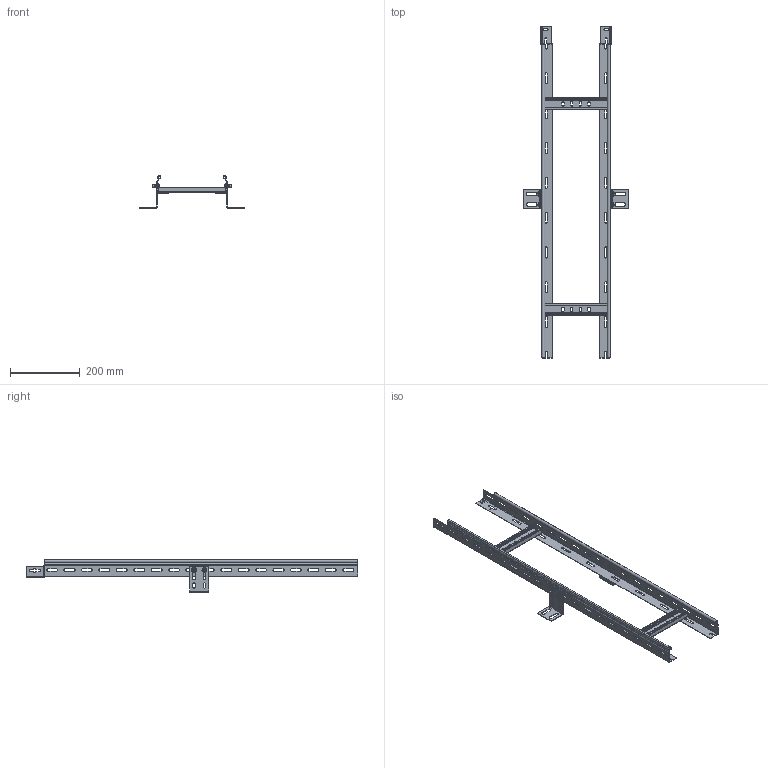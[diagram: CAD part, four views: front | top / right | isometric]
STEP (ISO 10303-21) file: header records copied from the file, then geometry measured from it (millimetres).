
FILE_DESCRIPTION (( 'STEP AP214' ), '1' );
FILE_NAME ('109.STEP', '2016-10-12T11:18:33', ( '' ), ( '' ), 'SwSTEP 2.0', 'SolidWorks 2016', '' );
FILE_SCHEMA (( 'AUTOMOTIVE_DESIGN' ));
Length unit declared in the file: millimetre
Products named in the file (10): OSTEC ÍËÎ 200.01_Ïåðåêëàäèíà 200; Êëèíã 1,5; OSTEC ÍËÎ 200.02_Ñâÿçü ïðîäîëüíàÿ 50; 109; 067609 襟6捘_Hexagon Flange Nut DIN 6923 - M6 - N; OSTEC ÍËÎ 200.03_Ñâÿçü ïðîäîëüíàÿ 50; 066169 蟯616_ISO 7045 - M6 x 10 - Z --- 10N; OSTEC ÍËÎ 200_Ëîòîê ëåñòíè÷íûé 200õ50; 050201 ﾑﾊﾋ
Assembly tree (15 placements, depth 3):
  Êëèíã 1,5
  109
    050201 ﾑﾊﾋ  x2
    OSTEC ÍËÎ 200_Ëîòîê ëåñòíè÷íûé 200õ50
      OSTEC ÍËÎ 200.02_Ñâÿçü ïðîäîëüíàÿ 50
      OSTEC ÍËÎ 200.03_Ñâÿçü ïðîäîëüíàÿ 50
      OSTEC ÍËÎ 200.01_Ïåðåêëàäèíà 200  x2
    066169 蟯616_ISO 7045 - M6 x 10 - Z --- 10N  x4
    067609 襟6捘_Hexagon Flange Nut DIN 6923 - M6 - N  x4
  OSTEC ÍËÎ 200.01_Ïåðåêëàäèíà 200
Bounding box: 300 x 953 x 94.38 mm (x, y, z)
Volume: 251909.5 mm3; surface area: 430758.7 mm2
Topology: 14 solids, 14 shells, 914 faces, 2376 edges, 1482 vertices
Faces by surface type: plane 424, cylinder 354, cone 72, torus 32, bspline 24, sphere 8
Entity records: 20214 total; most frequent: CARTESIAN_POINT 3932, DIRECTION 3392, ORIENTED_EDGE 3300, EDGE_CURVE 1650, AXIS2_PLACEMENT_3D 1215, VERTEX_POINT 1053, LINE 962, VECTOR 962
